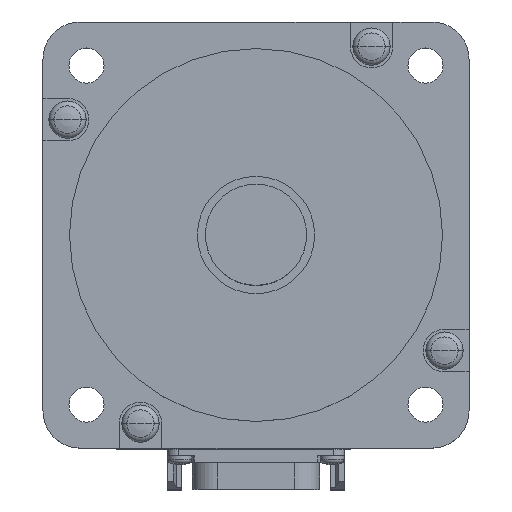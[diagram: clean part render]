
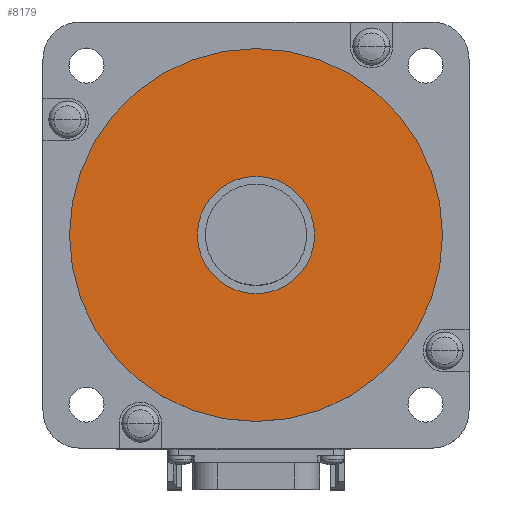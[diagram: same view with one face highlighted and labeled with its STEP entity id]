
A CAD part, top view. The second image highlights one B-rep face of the part: STEP entity #8179.
In plain terms, the highlighted planar face has unit normal (0, 0, 1).
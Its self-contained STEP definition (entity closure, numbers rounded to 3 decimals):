
#1863=CARTESIAN_POINT('',(0.,0.,3.));
#1864=DIRECTION('',(0.,0.,-1.));
#1865=DIRECTION('',(1.,0.,0.));
#1866=AXIS2_PLACEMENT_3D('',#1863,#1864,#1865);
#1868=CARTESIAN_POINT('',(0.,0.,3.));
#1869=DIRECTION('',(0.,0.,-1.));
#1870=DIRECTION('',(-1.,0.,0.));
#1871=AXIS2_PLACEMENT_3D('',#1868,#1869,#1870);
#1873=CARTESIAN_POINT('',(0.,0.,3.));
#1874=DIRECTION('',(0.,0.,1.));
#1875=DIRECTION('',(1.,0.,0.));
#1876=AXIS2_PLACEMENT_3D('',#1873,#1874,#1875);
#1878=CARTESIAN_POINT('',(0.,0.,3.));
#1879=DIRECTION('',(0.,0.,1.));
#1880=DIRECTION('',(-1.,0.,0.));
#1881=AXIS2_PLACEMENT_3D('',#1878,#1879,#1880);
#4632=CARTESIAN_POINT('',(35.,0.,3.));
#4633=VERTEX_POINT('',#4632);
#4634=CARTESIAN_POINT('',(-35.,0.,3.));
#4635=VERTEX_POINT('',#4634);
#5704=CARTESIAN_POINT('',(11.,0.,3.));
#5705=CARTESIAN_POINT('',(-11.,0.,3.));
#5706=VERTEX_POINT('',#5704);
#5707=VERTEX_POINT('',#5705);
#8163=CARTESIAN_POINT('',(0.,0.,3.));
#8164=DIRECTION('',(0.,0.,1.));
#8165=DIRECTION('',(1.,0.,0.));
#8166=AXIS2_PLACEMENT_3D('',#8163,#8164,#8165);
#8167=PLANE('',#8166);
#8168=ORIENTED_EDGE('',*,*,#8153,.T.);
#8170=ORIENTED_EDGE('',*,*,#8169,.T.);
#8171=EDGE_LOOP('',(#8168,#8170));
#8172=FACE_OUTER_BOUND('',#8171,.F.);
#8174=ORIENTED_EDGE('',*,*,#8173,.T.);
#8176=ORIENTED_EDGE('',*,*,#8175,.T.);
#8177=EDGE_LOOP('',(#8174,#8176));
#8178=FACE_BOUND('',#8177,.F.);
#8179=ADVANCED_FACE('',(#8172,#8178),#8167,.T.);
#1867=CIRCLE('',#1866,35.);
#1872=CIRCLE('',#1871,35.);
#1877=CIRCLE('',#1876,11.);
#1882=CIRCLE('',#1881,11.);
#8153=EDGE_CURVE('',#4633,#4635,#1867,.T.);
#8169=EDGE_CURVE('',#4635,#4633,#1872,.T.);
#8173=EDGE_CURVE('',#5706,#5707,#1877,.T.);
#8175=EDGE_CURVE('',#5707,#5706,#1882,.T.);
